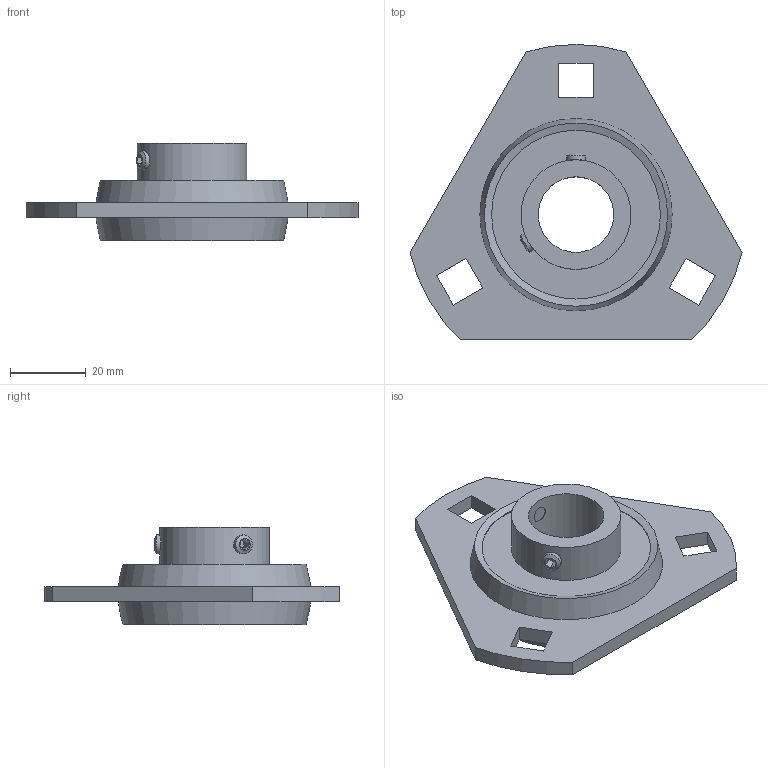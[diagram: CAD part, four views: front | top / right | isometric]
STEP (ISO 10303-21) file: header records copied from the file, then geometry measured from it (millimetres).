
FILE_DESCRIPTION((''),'2;1');
FILE_NAME('\\Ts-tgl068\j-cad-d-base\00.3DCADデータ作成フォルダ\02.フランジ形\BPFT\BPFT4.stp','2014-05-08T08:31:13',('btec_1106_2'),(''),'Autodesk Inventor 2012','Autodesk Inventor 2012','');
FILE_SCHEMA(('AUTOMOTIVE_DESIGN { 1 0 10303 214 1 1 1 1 }'));
Length unit declared in the file: millimetre
Products named in the file (3): BPFT; PFT4; シリーズB [番手=4 ul]
Assembly tree (2 placements, depth 2):
  BPFT
    PFT4
    シリーズB [番手=4 ul]
Bounding box: 87.75 x 78 x 25.7 mm (x, y, z)
Volume: 37908.9 mm3; surface area: 18541.6 mm2
Topology: 2 solids, 2 shells, 57 faces, 139 edges, 91 vertices
Faces by surface type: plane 38, cylinder 11, sphere 4, cone 4
Full cylindrical faces by diameter (mm): 5 x2, 20 x1, 29 x1
Entity records: 1748 total; most frequent: CARTESIAN_POINT 400, DIRECTION 260, ORIENTED_EDGE 236, EDGE_CURVE 118, AXIS2_PLACEMENT_3D 88, EDGE_LOOP 86, VERTEX_POINT 84, VECTOR 84
